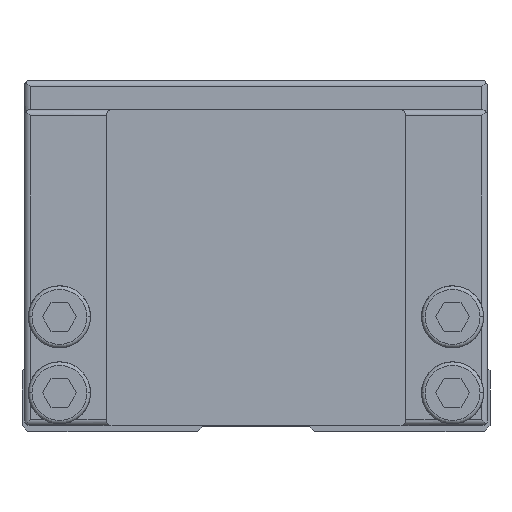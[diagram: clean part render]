
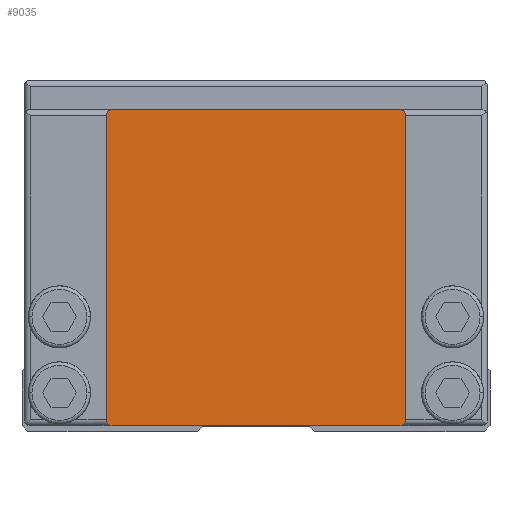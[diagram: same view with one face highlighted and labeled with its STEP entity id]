
A CAD part, front view. The second image highlights one B-rep face of the part: STEP entity #9035.
In plain terms, the highlighted planar face has unit normal (0, -1, 0).
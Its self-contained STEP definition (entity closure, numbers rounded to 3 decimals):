
#6797=EDGE_CURVE('',#8779,#8491,#18655,.T.);
#6919=VERTEX_POINT('',#18788);
#7111=VERTEX_POINT('',#19004);
#8115=VERTEX_POINT('',#20126);
#8319=EDGE_CURVE('',#10603,#8779,#20348,.T.);
#8491=VERTEX_POINT('',#20537);
#8645=VERTEX_POINT('',#20704);
#8779=VERTEX_POINT('',#20854);
#9035=ADVANCED_FACE('',(#21128),#21129,.T.);
#9911=VERTEX_POINT('',#22100);
#10231=EDGE_CURVE('',#8491,#7111,#22447,.T.);
#10603=VERTEX_POINT('',#22868);
#10753=EDGE_CURVE('',#8115,#9911,#23034,.T.);
#13485=EDGE_CURVE('',#7111,#8645,#26045,.T.);
#14953=EDGE_CURVE('',#8645,#8115,#27682,.T.);
#16209=EDGE_CURVE('',#9911,#6919,#29072,.T.);
#16453=EDGE_CURVE('',#6919,#10603,#29342,.T.);
#18655=LINE('',#32222,#32223);
#18788=CARTESIAN_POINT('',(-12.8,0.0,1.0));
#19004=CARTESIAN_POINT('',(12.8,0.0,27.0));
#20126=CARTESIAN_POINT('',(12.3,0.0,0.5));
#20348=CIRCLE('',#34647,0.5);
#20537=CARTESIAN_POINT('',(12.3,0.0,27.5));
#20704=CARTESIAN_POINT('',(12.8,0.0,1.0));
#20854=CARTESIAN_POINT('',(-12.3,0.0,27.5));
#21128=FACE_OUTER_BOUND('',#35829,.T.);
#21129=PLANE('',#35830);
#22100=CARTESIAN_POINT('',(-12.3,0.0,0.5));
#22447=CIRCLE('',#37876,0.5);
#22868=CARTESIAN_POINT('',(-12.8,0.0,27.0));
#23034=LINE('',#38708,#38709);
#26045=LINE('',#43150,#43151);
#27682=CIRCLE('',#45455,0.5);
#29072=CIRCLE('',#47394,0.5);
#29342=LINE('',#47759,#47760);
#32222=CARTESIAN_POINT('',(12.3,0.0,27.5));
#32223=VECTOR('',#50714,1.0);
#34647=AXIS2_PLACEMENT_3D('',#52659,#52660,#52661);
#35829=EDGE_LOOP('',(#53531,#53532,#53533,#53534,#53535,#53536,#53537,#53538));
#35830=AXIS2_PLACEMENT_3D('',#53539,#53540,#53541);
#37876=AXIS2_PLACEMENT_3D('',#55041,#55042,#55043);
#38708=CARTESIAN_POINT('',(-12.3,0.0,0.5));
#38709=VECTOR('',#55757,1.0);
#43150=CARTESIAN_POINT('',(12.8,0.0,1.0));
#43151=VECTOR('',#59156,1.0);
#45455=AXIS2_PLACEMENT_3D('',#61105,#61106,#61107);
#47394=AXIS2_PLACEMENT_3D('',#62718,#62719,#62720);
#47759=CARTESIAN_POINT('',(-12.8,0.0,27.0));
#47760=VECTOR('',#63022,1.0);
#50714=DIRECTION('',(1.0,0.0,0.0));
#52659=CARTESIAN_POINT('',(-12.3,0.0,27.0));
#52660=DIRECTION('',(0.0,1.0,-0.0));
#52661=DIRECTION('',(0.,0.0,1.0));
#53531=ORIENTED_EDGE('',*,*,#16453,.F.);
#53532=ORIENTED_EDGE('',*,*,#16209,.F.);
#53533=ORIENTED_EDGE('',*,*,#10753,.F.);
#53534=ORIENTED_EDGE('',*,*,#14953,.F.);
#53535=ORIENTED_EDGE('',*,*,#13485,.F.);
#53536=ORIENTED_EDGE('',*,*,#10231,.F.);
#53537=ORIENTED_EDGE('',*,*,#6797,.F.);
#53538=ORIENTED_EDGE('',*,*,#8319,.F.);
#53539=CARTESIAN_POINT('',(0.,0.0,14.0));
#53540=DIRECTION('',(0.0,-1.0,0.0));
#53541=DIRECTION('',(1.0,0.0,0.0));
#55041=CARTESIAN_POINT('',(12.3,0.0,27.0));
#55042=DIRECTION('',(-0.0,1.0,0.0));
#55043=DIRECTION('',(1.0,0.0,0.));
#55757=DIRECTION('',(-1.0,0.0,-0.0));
#59156=DIRECTION('',(-0.0,0.0,-1.0));
#61105=CARTESIAN_POINT('',(12.3,0.0,1.));
#61106=DIRECTION('',(-0.0,1.0,0.0));
#61107=DIRECTION('',(0.0,0.0,-1.0));
#62718=CARTESIAN_POINT('',(-12.3,0.0,1.));
#62719=DIRECTION('',(0.0,1.0,-0.0));
#62720=DIRECTION('',(-1.0,0.0,0.));
#63022=DIRECTION('',(0.0,0.0,1.0));
